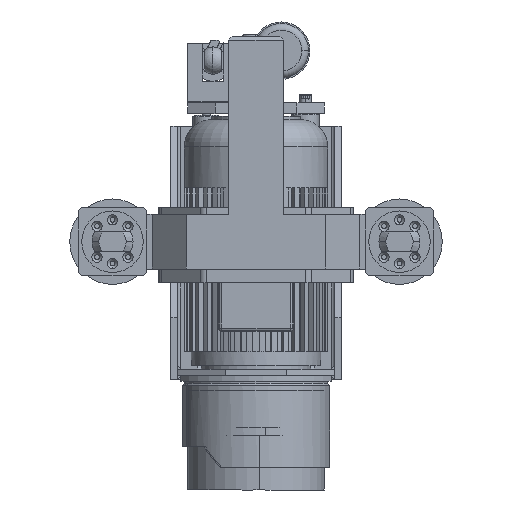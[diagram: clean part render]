
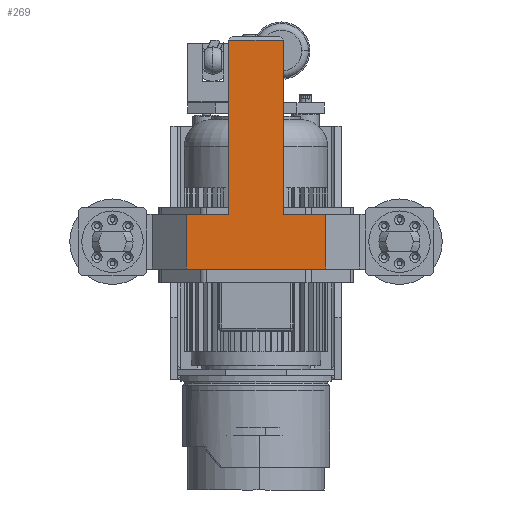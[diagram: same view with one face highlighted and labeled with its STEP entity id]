
A CAD part, left-side view. The second image highlights one B-rep face of the part: STEP entity #269.
In plain terms, the highlighted planar face has unit normal (-1, 0, 0) as drawn and (0, 1, 0) by its records, which use the part's own axes.
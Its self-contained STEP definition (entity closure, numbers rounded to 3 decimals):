
#106=CARTESIAN_POINT('',(53.193,59.319,335.0));
#107=VERTEX_POINT('',#106);
#167=CARTESIAN_POINT('',(-26.807,59.319,335.0));
#168=VERTEX_POINT('',#167);
#197=CARTESIAN_POINT('',(53.193,59.319,335.0));
#198=DIRECTION('',(-1.0,0.0,0.0));
#199=VECTOR('',#198,80.);
#200=LINE('',#197,#199);
#201=EDGE_CURVE('',#107,#168,#200,.T.);
#207=CARTESIAN_POINT('',(-88.807,59.319,0.0));
#208=DIRECTION('',(0.0,1.0,0.0));
#209=DIRECTION('',(0.0,0.0,1.0));
#210=AXIS2_PLACEMENT_3D('',#207,#208,#209);
#211=PLANE('',#210);
#212=ORIENTED_EDGE('',*,*,#201,.F.);
#213=CARTESIAN_POINT('',(53.193,59.319,80.0));
#214=VERTEX_POINT('',#213);
#215=CARTESIAN_POINT('',(53.193,59.319,80.0));
#216=DIRECTION('',(0.0,0.0,1.0));
#217=VECTOR('',#216,255.0);
#218=LINE('',#215,#217);
#219=EDGE_CURVE('',#214,#107,#218,.T.);
#220=ORIENTED_EDGE('',*,*,#219,.F.);
#221=CARTESIAN_POINT('',(115.193,59.319,80.0));
#222=VERTEX_POINT('',#221);
#223=CARTESIAN_POINT('',(53.193,59.319,80.0));
#224=DIRECTION('',(1.0,0.0,0.0));
#225=VECTOR('',#224,62.);
#226=LINE('',#223,#225);
#227=EDGE_CURVE('',#214,#222,#226,.T.);
#228=ORIENTED_EDGE('',*,*,#227,.T.);
#229=CARTESIAN_POINT('',(115.193,59.319,0.0));
#230=VERTEX_POINT('',#229);
#231=CARTESIAN_POINT('',(115.193,59.319,0.0));
#232=DIRECTION('',(0.0,0.0,1.0));
#233=VECTOR('',#232,80.0);
#234=LINE('',#231,#233);
#235=EDGE_CURVE('',#230,#222,#234,.T.);
#236=ORIENTED_EDGE('',*,*,#235,.F.);
#237=CARTESIAN_POINT('',(-88.807,59.319,0.0));
#238=VERTEX_POINT('',#237);
#239=CARTESIAN_POINT('',(-88.807,59.319,0.0));
#240=DIRECTION('',(1.0,0.0,0.0));
#241=VECTOR('',#240,204.0);
#242=LINE('',#239,#241);
#243=EDGE_CURVE('',#238,#230,#242,.T.);
#244=ORIENTED_EDGE('',*,*,#243,.F.);
#245=CARTESIAN_POINT('',(-88.807,59.319,80.0));
#246=VERTEX_POINT('',#245);
#247=CARTESIAN_POINT('',(-88.807,59.319,0.0));
#248=DIRECTION('',(0.0,0.0,1.0));
#249=VECTOR('',#248,80.0);
#250=LINE('',#247,#249);
#251=EDGE_CURVE('',#238,#246,#250,.T.);
#252=ORIENTED_EDGE('',*,*,#251,.T.);
#253=CARTESIAN_POINT('',(-26.807,59.319,80.0));
#254=VERTEX_POINT('',#253);
#255=CARTESIAN_POINT('',(-88.807,59.319,80.0));
#256=DIRECTION('',(1.0,0.0,0.0));
#257=VECTOR('',#256,62.);
#258=LINE('',#255,#257);
#259=EDGE_CURVE('',#246,#254,#258,.T.);
#260=ORIENTED_EDGE('',*,*,#259,.T.);
#261=CARTESIAN_POINT('',(-26.807,59.319,80.0));
#262=DIRECTION('',(0.0,0.0,1.0));
#263=VECTOR('',#262,255.0);
#264=LINE('',#261,#263);
#265=EDGE_CURVE('',#254,#168,#264,.T.);
#266=ORIENTED_EDGE('',*,*,#265,.T.);
#267=EDGE_LOOP('',(#212,#220,#228,#236,#244,#252,#260,#266));
#268=FACE_OUTER_BOUND('',#267,.T.);
#269=ADVANCED_FACE('',(#268),#211,.T.);
